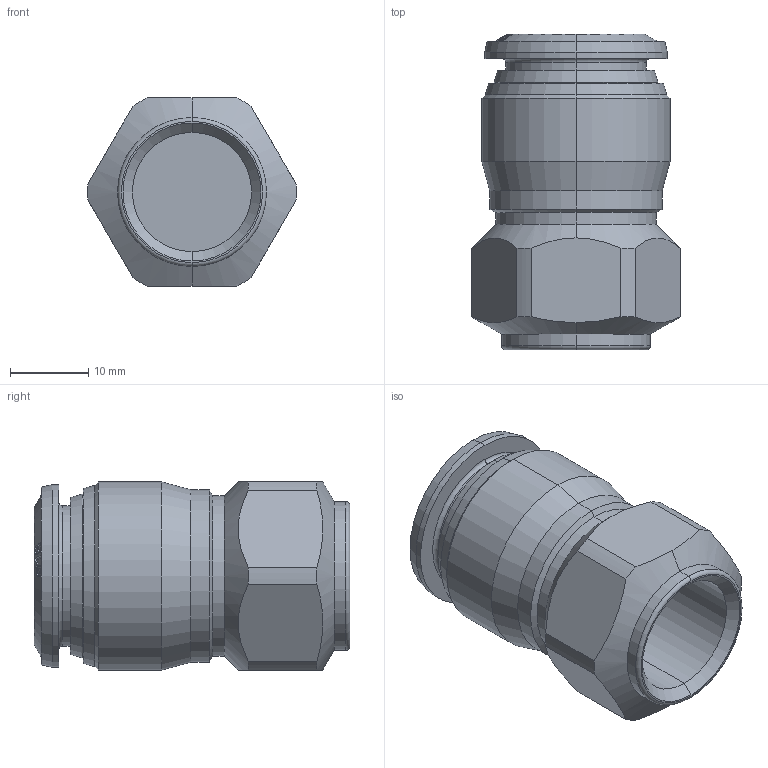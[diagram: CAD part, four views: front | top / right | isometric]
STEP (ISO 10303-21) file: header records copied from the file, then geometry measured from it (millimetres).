
FILE_DESCRIPTION (( 'STEP AP214' ), '1' );
FILE_NAME ('5003000016A.STEP', '2023-11-02T10:42:58', ( '' ), ( '' ), 'SwSTEP 2.0', 'SolidWorks 2020', '' );
FILE_SCHEMA (( 'AUTOMOTIVE_DESIGN' ));
Length unit declared in the file: millimetre
Products named in the file (1): 5003000016A
Bounding box: 26.59 x 40.25 x 24 mm (x, y, z)
Volume: 9660.4 mm3; surface area: 5827.3 mm2
Topology: 1 solids, 1 shells, 111 faces, 262 edges, 164 vertices
Faces by surface type: bspline 40, cone 32, cylinder 22, plane 13, torus 4
Entity records: 5576 total; most frequent: CARTESIAN_POINT 3240, ORIENTED_EDGE 524, DIRECTION 382, EDGE_CURVE 262, VERTEX_POINT 164, AXIS2_PLACEMENT_3D 144, EDGE_LOOP 122, FACE_OUTER_BOUND 111
